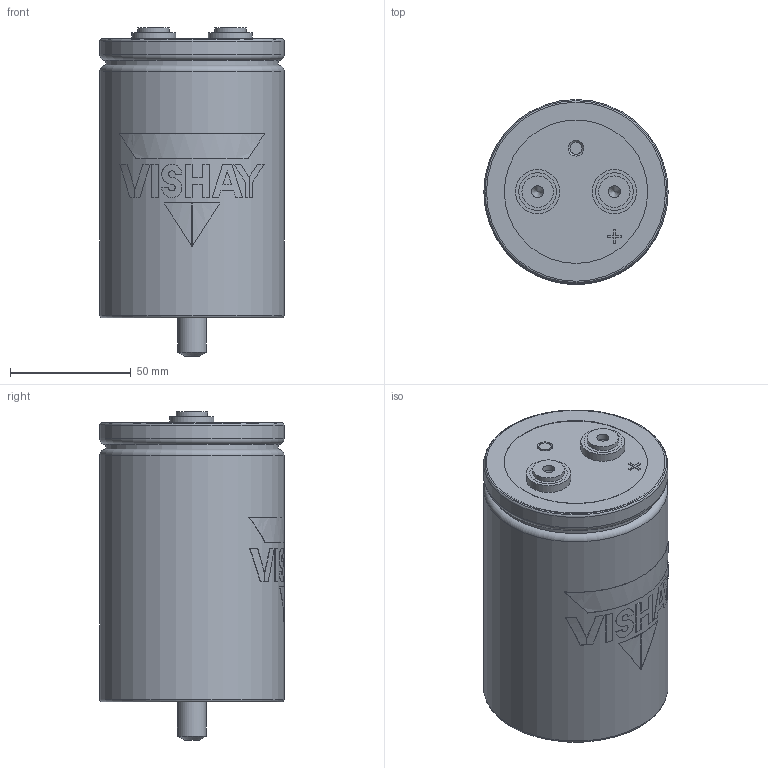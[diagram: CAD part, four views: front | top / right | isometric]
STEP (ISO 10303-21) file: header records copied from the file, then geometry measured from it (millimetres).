
FILE_DESCRIPTION(('FreeCAD Model'),'2;1');
FILE_NAME('C:/Users/tvandesteeg/Documents/Documents/FreeCAD/Stepfiles/ST capacitors/STB_LP_M6_76x114.step','2020-07-02T18:01:15',('Author'),(''), 'Open CASCADE STEP processor 7.3','FreeCAD','Unknown');
FILE_SCHEMA(('AUTOMOTIVE_DESIGN { 1 0 10303 214 1 1 1 1 }'));
Length unit declared in the file: millimetre
Products named in the file (7): VentBody; TerminalBody_(Mirror_#2); TerminalBody; STBBottomBody; Disc; LogoPrint; CanBody
Bounding box: 76.4 x 76.5 x 136 mm (x, y, z)
Volume: 528289.4 mm3; surface area: 64771.8 mm2
Topology: 17 solids, 17 shells, 152 faces, 318 edges, 209 vertices
Faces by surface type: plane 94, cylinder 49, torus 5, cone 4
Full cylindrical faces by diameter (mm): 5 x4, 11.966 x1, 13 x2, 15.65 x6, 18.3 x2, 59.422 x3, 71.4 x1, 72 x2, 76.4 x2
Entity records: 10788 total; most frequent: CARTESIAN_POINT 3378, DIRECTION 1228, ORIENTED_EDGE 632, PCURVE 632, DEFINITIONAL_REPRESENTATION 632, LINE 542, VECTOR 542, EDGE_CURVE 316
